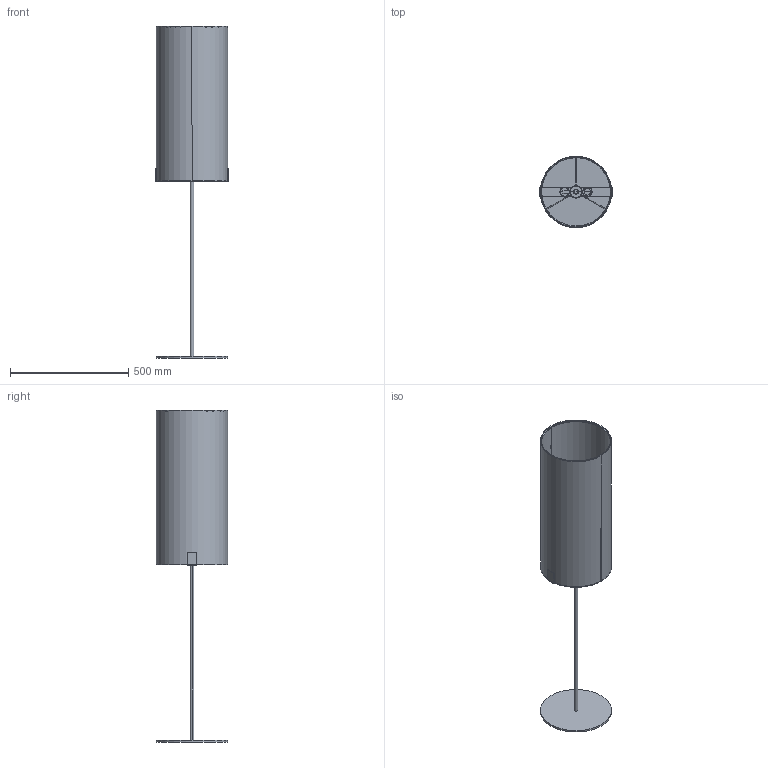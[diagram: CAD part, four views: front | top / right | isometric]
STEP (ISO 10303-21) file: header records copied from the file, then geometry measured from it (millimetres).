
FILE_DESCRIPTION(/* description */ (''),/* implementation_level */ '2;1');
FILE_NAME(/* name */ '20055.step',/* time_stamp */ '2024-05-15T09:50:41+02:00',/* author */ ('RenataManzini'),/* organization */ (''),/* preprocessor_version */ 'ST-DEVELOPER v20',/* originating_system */ 'AutoCAD Mechanical',/* authorisation */ '');
FILE_SCHEMA (('AUTOMOTIVE_DESIGN { 1 0 10303 214 3 1 1 }'));
Length unit declared in the file: millimetre
Products named in the file (2): Product; NILA_PIE - pieza_62173-628943-_3D_
Assembly tree (1 placements, depth 2):
  Product
    NILA_PIE - pieza_62173-628943-_3D_
Bounding box: 306 x 300 x 1401 mm (x, y, z)
Volume: 2096945.5 mm3; surface area: 1542610.4 mm2
Topology: 9 solids, 10 shells, 153 faces, 351 edges, 216 vertices
Faces by surface type: cylinder 66, plane 63, torus 24
Entity records: 7568 total; most frequent: CARTESIAN_POINT 4147, ORIENTED_EDGE 689, DIRECTION 683, EDGE_CURVE 348, AXIS2_PLACEMENT_3D 271, VERTEX_POINT 211, EDGE_LOOP 162, FACE_OUTER_BOUND 153
